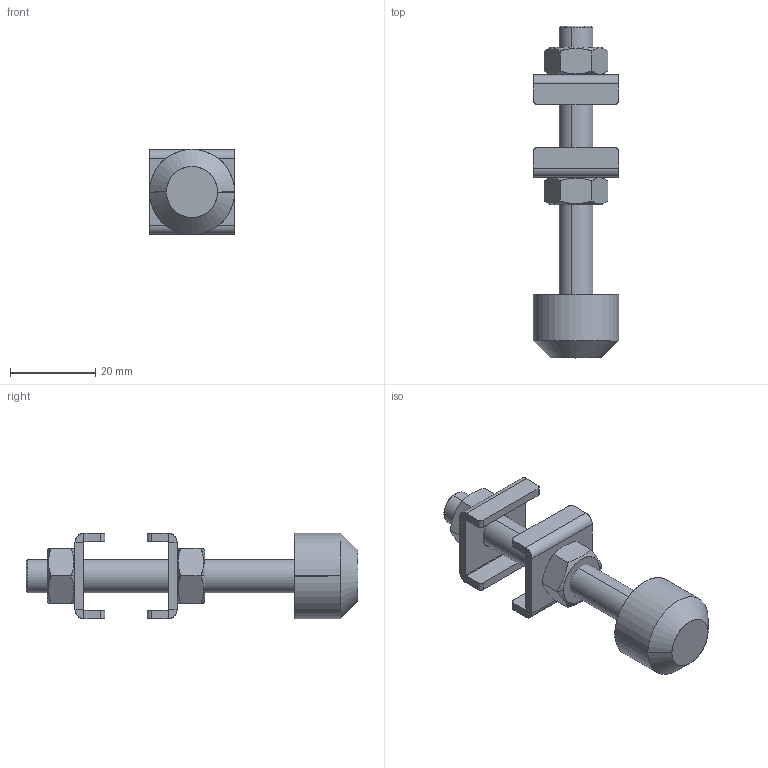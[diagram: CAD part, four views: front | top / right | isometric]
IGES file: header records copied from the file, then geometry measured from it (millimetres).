
Start section: SolidWorks IGES file using analytic representation for surfaces
Global section: file name: C:\Projetos\Ponteiras\BRP\BRP-M8.IGS; native system: SolidWorks 2015; preprocessor: SolidWorks 2015; author: Ricardo; date: 160725.150202; units: millimetre
Bounding box: 20 x 78 x 20 mm (x, y, z)
Surface area: 7255.7 mm2 (no closed solid volume)
Topology: 0 solids, 0 shells, 110 faces, 1480 edges, 1478 vertices
Faces by surface type: bspline 56, revolution 54
